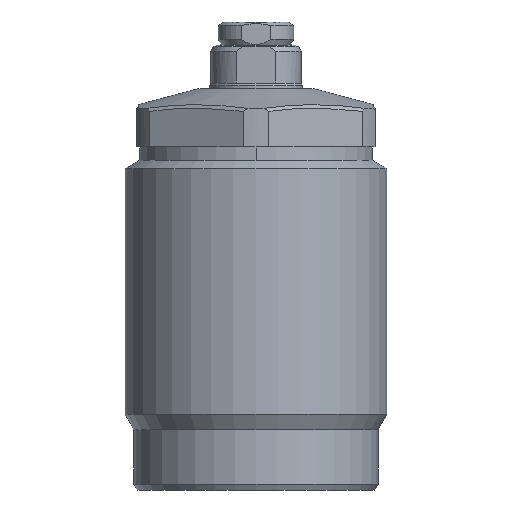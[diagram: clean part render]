
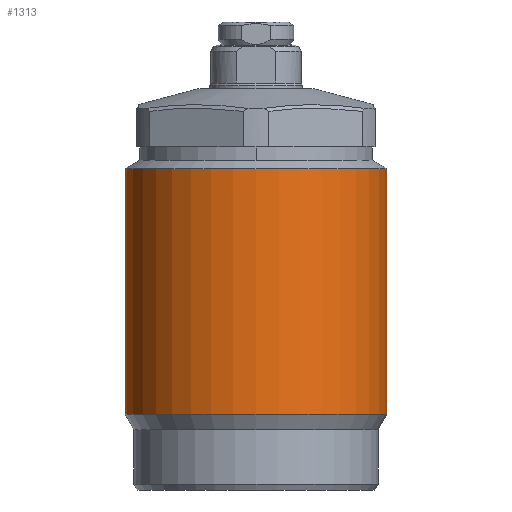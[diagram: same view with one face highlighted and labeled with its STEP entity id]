
A CAD part, front view. The second image highlights one B-rep face of the part: STEP entity #1313.
In plain terms, the highlighted cylindrical face has radius 22.5 mm (diameter 45 mm), a partial arc.
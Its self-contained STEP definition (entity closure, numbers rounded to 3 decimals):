
#113 = DIRECTION ( 'NONE',  ( 0., 0., -1. ) ) ;
#236 = ORIENTED_EDGE ( 'NONE', *, *, #3075, .F. ) ;
#256 = ORIENTED_EDGE ( 'NONE', *, *, #3444, .T. ) ;
#332 = CIRCLE ( 'NONE', #2727, 22.5 ) ;
#390 = DIRECTION ( 'NONE',  ( -1., 0., 0. ) ) ;
#637 = CYLINDRICAL_SURFACE ( 'NONE', #2369, 22.5 ) ;
#728 = CARTESIAN_POINT ( 'NONE',  ( 22.5, 0., 69. ) ) ;
#787 = AXIS2_PLACEMENT_3D ( 'NONE', #3040, #113, #3331 ) ;
#897 = CARTESIAN_POINT ( 'NONE',  ( 22.5, 0., 13. ) ) ;
#997 = EDGE_CURVE ( 'NONE', #2661, #2898, #2929, .T. ) ;
#1037 = VECTOR ( 'NONE', #3294, 1000. ) ;
#1229 = VERTEX_POINT ( 'NONE', #897 ) ;
#1258 = ORIENTED_EDGE ( 'NONE', *, *, #997, .T. ) ;
#1313 = ADVANCED_FACE ( 'NONE', ( #3206 ), #637, .T. ) ;
#1341 = DIRECTION ( 'NONE',  ( 0., 0., 1. ) ) ;
#1445 = EDGE_CURVE ( 'NONE', #2898, #1229, #332, .T. ) ;
#1545 = CARTESIAN_POINT ( 'NONE',  ( -22.5, 0., 69. ) ) ;
#1555 = LINE ( 'NONE', #728, #1037 ) ;
#1613 = CARTESIAN_POINT ( 'NONE',  ( 0., 0., 13. ) ) ;
#1720 = CARTESIAN_POINT ( 'NONE',  ( 22.5, 0., 55.268 ) ) ;
#1984 = CARTESIAN_POINT ( 'NONE',  ( -22.5, 0., 13. ) ) ;
#2215 = VECTOR ( 'NONE', #2320, 1000. ) ;
#2219 = CIRCLE ( 'NONE', #787, 22.5 ) ;
#2262 = CARTESIAN_POINT ( 'NONE',  ( -22.5, 0., 55.268 ) ) ;
#2320 = DIRECTION ( 'NONE',  ( 0., 0., -1. ) ) ;
#2369 = AXIS2_PLACEMENT_3D ( 'NONE', #3312, #3563, #390 ) ;
#2455 = DIRECTION ( 'NONE',  ( -1., 0., 0. ) ) ;
#2597 = VERTEX_POINT ( 'NONE', #1720 ) ;
#2661 = VERTEX_POINT ( 'NONE', #2262 ) ;
#2727 = AXIS2_PLACEMENT_3D ( 'NONE', #1613, #1341, #2455 ) ;
#2808 = EDGE_LOOP ( 'NONE', ( #236, #256, #1258, #3507 ) ) ;
#2898 = VERTEX_POINT ( 'NONE', #1984 ) ;
#2929 = LINE ( 'NONE', #1545, #2215 ) ;
#3040 = CARTESIAN_POINT ( 'NONE',  ( 0., 0., 55.268 ) ) ;
#3075 = EDGE_CURVE ( 'NONE', #2597, #1229, #1555, .T. ) ;
#3206 = FACE_OUTER_BOUND ( 'NONE', #2808, .T. ) ;
#3294 = DIRECTION ( 'NONE',  ( 0., 0., -1. ) ) ;
#3312 = CARTESIAN_POINT ( 'NONE',  ( 0., 0., 69. ) ) ;
#3331 = DIRECTION ( 'NONE',  ( -1., 0., 0. ) ) ;
#3444 = EDGE_CURVE ( 'NONE', #2597, #2661, #2219, .T. ) ;
#3507 = ORIENTED_EDGE ( 'NONE', *, *, #1445, .T. ) ;
#3563 = DIRECTION ( 'NONE',  ( 0., 0., -1. ) ) ;
